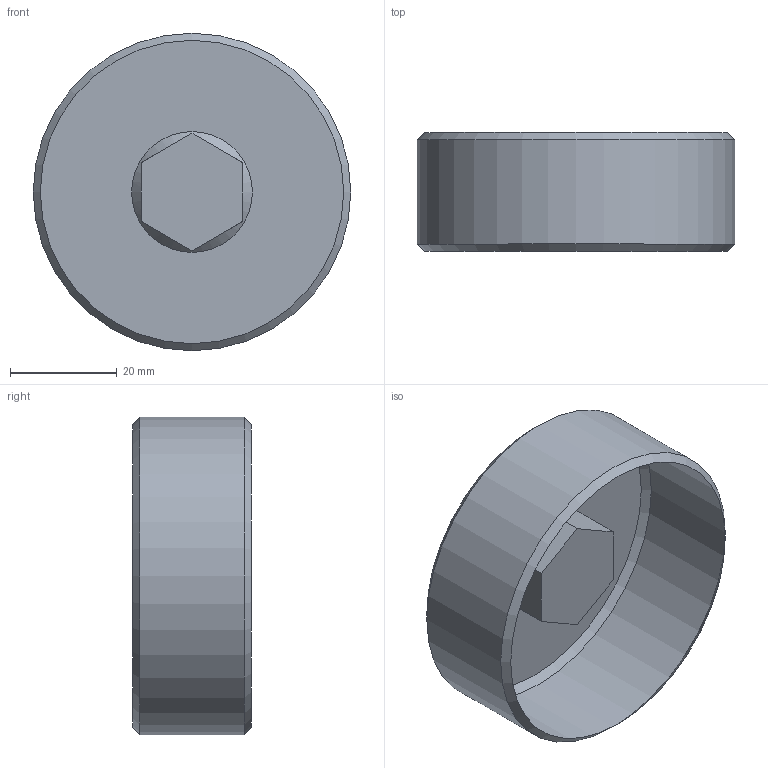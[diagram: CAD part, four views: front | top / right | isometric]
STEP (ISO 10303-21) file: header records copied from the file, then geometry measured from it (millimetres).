
FILE_DESCRIPTION(/* description */ (''),/* implementation_level */ '2;1');
FILE_NAME(/* name */ 'C:/Users/drich/Desktop/cad/Plugs/NPT Pipe Plugs/Stainless/BD-2 v1.step',/* time_stamp */ '2020-01-10T11:15:08-06:00',/* author */ (''),/* organization */ (''),/* preprocessor_version */ 'ST-DEVELOPER v18',/* originating_system */ 'Autodesk Translation Framework v8.12.0.6',/* authorisation */ '');
FILE_SCHEMA (('AUTOMOTIVE_DESIGN { 1 0 10303 214 3 1 1 }'));
Length unit declared in the file: inch
Products named in the file (1): BD-2
Bounding box: 59.43 x 22.23 x 59.43 mm (x, y, z)
Volume: 57679.4 mm3; surface area: 10108.7 mm2
Topology: 1 solids, 1 shells, 13 faces, 38 edges, 27 vertices
Faces by surface type: plane 8, cone 4, cylinder 1
Full cylindrical faces by diameter (mm): 59.434 x1
Entity records: 465 total; most frequent: CARTESIAN_POINT 102, ORIENTED_EDGE 74, DIRECTION 61, EDGE_CURVE 37, VERTEX_POINT 27, AXIS2_PLACEMENT_3D 22, LINE 17, VECTOR 17
